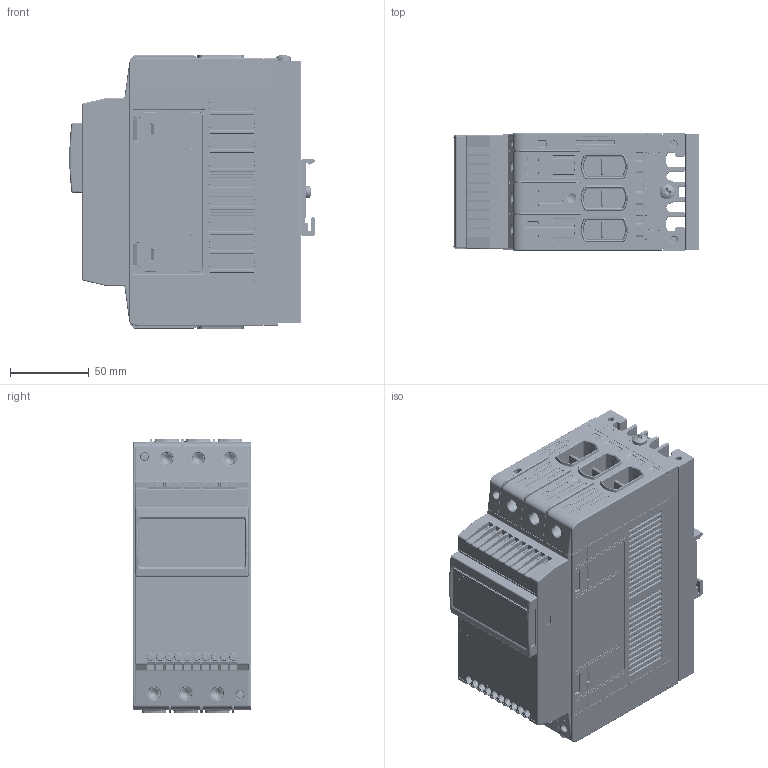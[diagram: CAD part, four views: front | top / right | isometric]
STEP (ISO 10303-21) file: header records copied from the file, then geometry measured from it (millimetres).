
FILE_DESCRIPTION((''),'2;1');
FILE_NAME('CGI1266-00-3D_3.stp','2015-09-10T14:55:35',('Silvio Theuma'),('Carlo Gavazzi Ltd. Malta'),'Mechanical Desktop 2011','Mechanical Desktop 2011',', , ');
FILE_SCHEMA(('CONFIG_CONTROL_DESIGN'));
Length unit declared in the file: millimetre
Products named in the file (3): ProductA; Product; CGI1266-00-3D
Assembly tree (2 placements, depth 3):
  ProductA
    Product
      CGI1266-00-3D
Bounding box: 155.42 x 75.2 x 174 mm (x, y, z)
Volume: 1556286.4 mm3; surface area: 205699.8 mm2
Topology: 84 solids, 89 shells, 19540 faces, 56162 edges, 36975 vertices
Faces by surface type: plane 15955, cylinder 2070, bspline 1127, cone 212, torus 112, sphere 64
Entity records: 689611 total; most frequent: CARTESIAN_POINT 178506, ORIENTED_EDGE 112196, DIRECTION 97739, EDGE_CURVE 56098, VECTOR 48693, LINE 48693, VERTEX_POINT 36975, AXIS2_PLACEMENT_3D 24523
